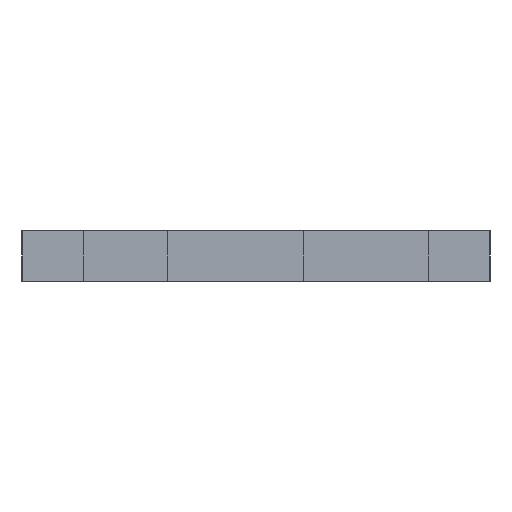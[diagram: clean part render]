
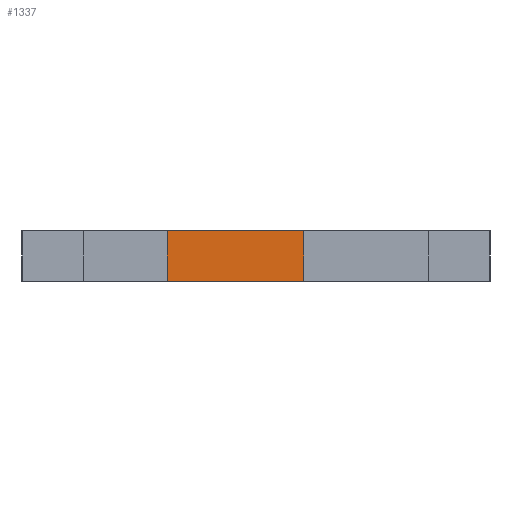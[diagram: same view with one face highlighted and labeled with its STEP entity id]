
A CAD part, front view. The second image highlights one B-rep face of the part: STEP entity #1337.
In plain terms, the highlighted planar face has unit normal (0, -1, 0).
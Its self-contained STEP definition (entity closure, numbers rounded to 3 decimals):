
#77 = DIRECTION ( 'NONE',  ( -1., 0., 0. ) ) ;
#171 = ORIENTED_EDGE ( 'NONE', *, *, #1551, .F. ) ;
#221 = CARTESIAN_POINT ( 'NONE',  ( 2.35, -60., 0. ) ) ;
#248 = LINE ( 'NONE', #642, #1124 ) ;
#334 = LINE ( 'NONE', #1000, #602 ) ;
#345 = CARTESIAN_POINT ( 'NONE',  ( -4.35, -60., 2.5 ) ) ;
#350 = ORIENTED_EDGE ( 'NONE', *, *, #1352, .T. ) ;
#364 = CARTESIAN_POINT ( 'NONE',  ( 2.35, -60., 2.5 ) ) ;
#494 = VERTEX_POINT ( 'NONE', #221 ) ;
#535 = EDGE_CURVE ( 'NONE', #494, #900, #248, .T. ) ;
#566 = CARTESIAN_POINT ( 'NONE',  ( 0., -60., 2.5 ) ) ;
#567 = CARTESIAN_POINT ( 'NONE',  ( -4.35, -60., 0. ) ) ;
#574 = CARTESIAN_POINT ( 'NONE',  ( -4.35, -60., 0. ) ) ;
#597 = LINE ( 'NONE', #567, #833 ) ;
#602 = VECTOR ( 'NONE', #1704, 1000. ) ;
#627 = FACE_OUTER_BOUND ( 'NONE', #1354, .T. ) ;
#642 = CARTESIAN_POINT ( 'NONE',  ( 2.35, -60., 0. ) ) ;
#762 = EDGE_CURVE ( 'NONE', #829, #900, #839, .T. ) ;
#829 = VERTEX_POINT ( 'NONE', #345 ) ;
#833 = VECTOR ( 'NONE', #1531, 1000. ) ;
#839 = LINE ( 'NONE', #566, #1410 ) ;
#900 = VERTEX_POINT ( 'NONE', #364 ) ;
#975 = AXIS2_PLACEMENT_3D ( 'NONE', #1184, #1154, #77 ) ;
#1000 = CARTESIAN_POINT ( 'NONE',  ( 0., -60., 0. ) ) ;
#1011 = ORIENTED_EDGE ( 'NONE', *, *, #762, .F. ) ;
#1082 = DIRECTION ( 'NONE',  ( 0., 0., 1. ) ) ;
#1124 = VECTOR ( 'NONE', #1082, 1000. ) ;
#1131 = DIRECTION ( 'NONE',  ( 1., 0., 0. ) ) ;
#1150 = VERTEX_POINT ( 'NONE', #574 ) ;
#1154 = DIRECTION ( 'NONE',  ( 0., 1., 0. ) ) ;
#1175 = PLANE ( 'NONE',  #975 ) ;
#1184 = CARTESIAN_POINT ( 'NONE',  ( 0., -60., 2.5 ) ) ;
#1293 = ORIENTED_EDGE ( 'NONE', *, *, #535, .T. ) ;
#1337 = ADVANCED_FACE ( 'NONE', ( #627 ), #1175, .F. ) ;
#1352 = EDGE_CURVE ( 'NONE', #1150, #494, #334, .T. ) ;
#1354 = EDGE_LOOP ( 'NONE', ( #350, #1293, #1011, #171 ) ) ;
#1410 = VECTOR ( 'NONE', #1131, 1000. ) ;
#1531 = DIRECTION ( 'NONE',  ( 0., 0., 1. ) ) ;
#1551 = EDGE_CURVE ( 'NONE', #1150, #829, #597, .T. ) ;
#1704 = DIRECTION ( 'NONE',  ( 1., 0., 0. ) ) ;
